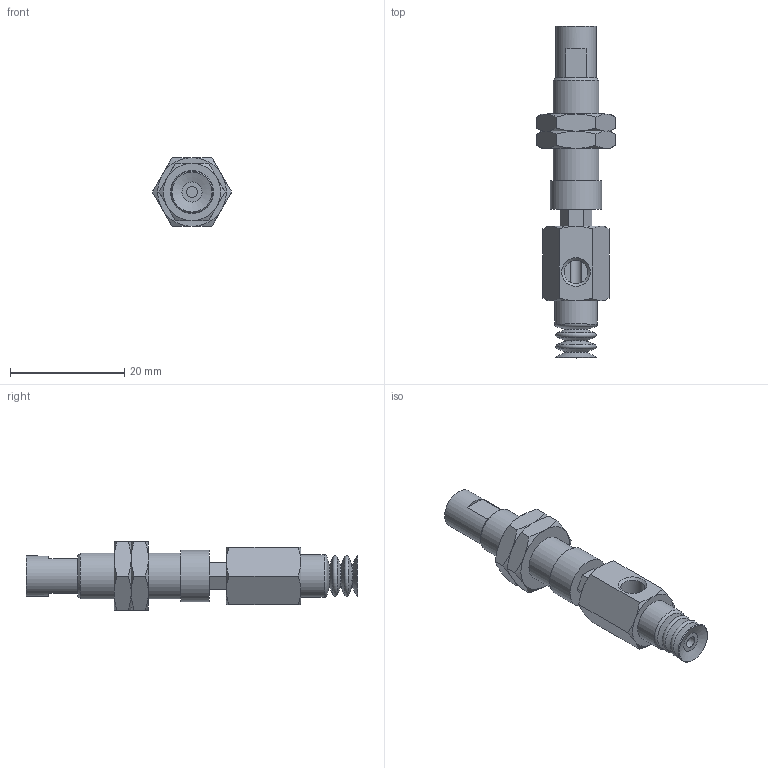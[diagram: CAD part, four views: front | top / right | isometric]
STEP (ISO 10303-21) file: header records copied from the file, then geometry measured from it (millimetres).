
FILE_DESCRIPTION(('STEP AP203'),'1');
FILE_NAME('.stp','2025-04-03T07:33:23',(' '),(' '),'Spatial InterOp 3D',' ',' ');
FILE_SCHEMA(('CONFIG_CONTROL_DESIGN'));
Length unit declared in the file: millimetre
Products named in the file (6): BNABPCYH-7-3-※; Connector_h-7-3; Nut napc_h-7-3; NAPCTH-7-3-FBODY; NAPCTH-7-3-MBODY; BPCG-7-※
Assembly tree (6 placements, depth 2):
  BNABPCYH-7-3-※
    Connector_h-7-3
    Nut napc_h-7-3  x2
    NAPCTH-7-3-FBODY
    NAPCTH-7-3-MBODY
    BPCG-7-※
Bounding box: 13.86 x 58 x 12 mm (x, y, z)
Volume: 3333.3 mm3; surface area: 4099.2 mm2
Topology: 6 solids, 6 shells, 146 faces, 310 edges, 185 vertices
Faces by surface type: plane 63, cone 55, cylinder 15, torus 13
Full cylindrical faces by diameter (mm): 2 x2, 4 x2, 4.134 x2, 5 x1, 6 x2, 7 x1, 7.188 x2, 7.5 x1, 8 x1, 9 x1
Entity records: 3584 total; most frequent: CARTESIAN_POINT 848, DIRECTION 508, ORIENTED_EDGE 432, AXIS2_PLACEMENT_3D 216, EDGE_CURVE 216, EDGE_LOOP 184, VERTEX_POINT 154, FACE_OUTER_BOUND 150
